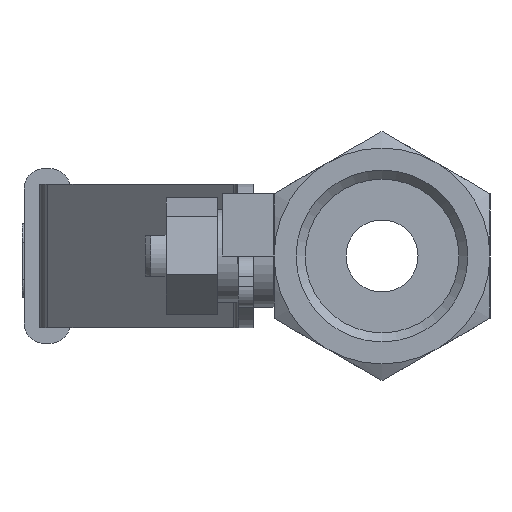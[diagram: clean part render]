
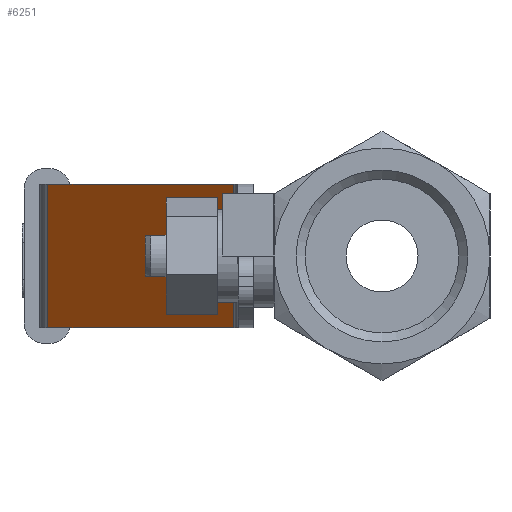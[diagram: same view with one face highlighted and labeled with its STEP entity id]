
A CAD part, left-side view. The second image highlights one B-rep face of the part: STEP entity #6251.
In plain terms, the highlighted planar face has unit normal (-0.685, 0.728, 0).
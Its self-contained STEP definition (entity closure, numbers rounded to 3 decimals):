
#313=PLANE('',#6645);
#545=FACE_OUTER_BOUND('',#888,.T.);
#888=EDGE_LOOP('',(#4290,#4291,#4292,#4293));
#1329=LINE('',#8762,#1944);
#1330=LINE('',#8765,#1945);
#1331=LINE('',#8767,#1946);
#1332=LINE('',#8768,#1947);
#1944=VECTOR('',#7281,10.);
#1945=VECTOR('',#7284,10.);
#1946=VECTOR('',#7285,10.);
#1947=VECTOR('',#7286,10.);
#2662=VERTEX_POINT('',#8755);
#2665=VERTEX_POINT('',#8760);
#2666=VERTEX_POINT('',#8764);
#2667=VERTEX_POINT('',#8766);
#3295=EDGE_CURVE('',#2665,#2662,#1329,.T.);
#3296=EDGE_CURVE('',#2665,#2666,#1330,.T.);
#3297=EDGE_CURVE('',#2667,#2666,#1331,.T.);
#3298=EDGE_CURVE('',#2667,#2662,#1332,.T.);
#4290=ORIENTED_EDGE('',*,*,#3295,.F.);
#4291=ORIENTED_EDGE('',*,*,#3296,.T.);
#4292=ORIENTED_EDGE('',*,*,#3297,.F.);
#4293=ORIENTED_EDGE('',*,*,#3298,.T.);
#6251=ADVANCED_FACE('',(#545),#313,.T.);
#6645=AXIS2_PLACEMENT_3D('',#8763,#7282,#7283);
#7281=DIRECTION('',(0.,0.,1.));
#7282=DIRECTION('center_axis',(-0.685,0.728,0.));
#7283=DIRECTION('ref_axis',(0.,0.,1.));
#7284=DIRECTION('',(-0.728,-0.685,0.));
#7285=DIRECTION('',(0.,0.,-1.));
#7286=DIRECTION('',(0.728,0.685,0.));
#8755=CARTESIAN_POINT('',(-5.787,20.197,7.));
#8760=CARTESIAN_POINT('',(-5.787,20.197,-7.));
#8762=CARTESIAN_POINT('',(-5.787,20.197,0.));
#8763=CARTESIAN_POINT('Origin',(-25.42,1.712,0.));
#8764=CARTESIAN_POINT('',(-24.987,2.12,-7.));
#8765=CARTESIAN_POINT('',(-4.92,21.012,-7.));
#8766=CARTESIAN_POINT('',(-24.987,2.12,7.));
#8767=CARTESIAN_POINT('',(-24.987,2.12,0.));
#8768=CARTESIAN_POINT('',(-4.92,21.012,7.));
